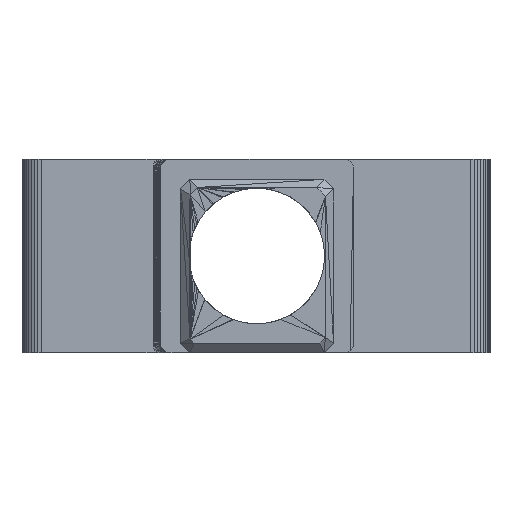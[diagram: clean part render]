
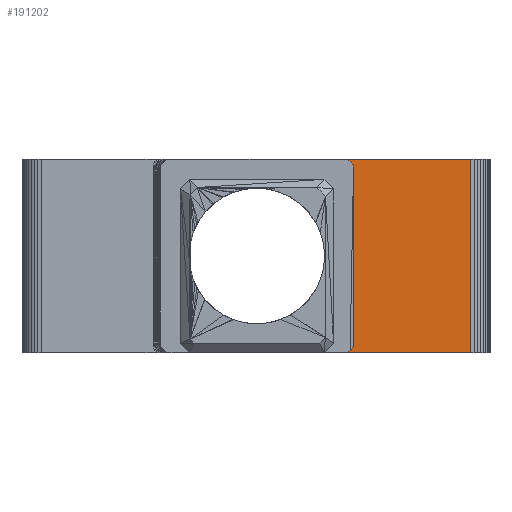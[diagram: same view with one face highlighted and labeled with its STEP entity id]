
A CAD part, front view. The second image highlights one B-rep face of the part: STEP entity #191202.
In plain terms, the highlighted planar face has unit normal (0, -1, 0).
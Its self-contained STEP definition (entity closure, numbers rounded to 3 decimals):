
#2839 = PLANE('',#2840);
#2840 = AXIS2_PLACEMENT_3D('',#2841,#2842,#2843);
#2841 = CARTESIAN_POINT('',(-7.543,7.418,
    20.));
#2842 = DIRECTION('',(0.,0.,1.));
#2843 = DIRECTION('',(1.,0.,-0.));
#8477 = PLANE('',#8478);
#8478 = AXIS2_PLACEMENT_3D('',#8479,#8480,#8481);
#8479 = CARTESIAN_POINT('',(23.228,9.097,0.));
#8480 = DIRECTION('',(-0.,-0.,-1.));
#8481 = DIRECTION('',(-1.,0.,0.));
#13095 = VERTEX_POINT('',#13096);
#13096 = CARTESIAN_POINT('',(22.2,-2.85,0.));
#13110 = PLANE('',#13111);
#13111 = AXIS2_PLACEMENT_3D('',#13112,#13113,#13114);
#13112 = CARTESIAN_POINT('',(22.46,-2.826,
    10.087));
#13113 = DIRECTION('',(0.092,-0.996,-0.));
#13114 = DIRECTION('',(-0.996,-0.092,0.));
#13122 = EDGE_CURVE('',#13095,#13123,#13125,.T.);
#13123 = VERTEX_POINT('',#13124);
#13124 = CARTESIAN_POINT('',(8.5,-2.85,0.));
#13125 = SURFACE_CURVE('',#13126,(#13130,#13137),.PCURVE_S1.);
#13126 = LINE('',#13127,#13128);
#13127 = CARTESIAN_POINT('',(22.2,-2.85,0.));
#13128 = VECTOR('',#13129,1.);
#13129 = DIRECTION('',(-1.,0.,0.));
#13130 = PCURVE('',#8477,#13131);
#13131 = DEFINITIONAL_REPRESENTATION('',(#13132),#13136);
#13132 = LINE('',#13133,#13134);
#13133 = CARTESIAN_POINT('',(1.028,-11.947));
#13134 = VECTOR('',#13135,1.);
#13135 = DIRECTION('',(1.,0.));
#13136 = ( GEOMETRIC_REPRESENTATION_CONTEXT(2) 
PARAMETRIC_REPRESENTATION_CONTEXT() REPRESENTATION_CONTEXT('2D SPACE',''
  ) );
#13137 = PCURVE('',#13138,#13143);
#13138 = PLANE('',#13139);
#13139 = AXIS2_PLACEMENT_3D('',#13140,#13141,#13142);
#13140 = CARTESIAN_POINT('',(15.35,-2.85,
    16.805));
#13141 = DIRECTION('',(-0.,-1.,-0.));
#13142 = DIRECTION('',(0.,0.,-1.));
#13143 = DEFINITIONAL_REPRESENTATION('',(#13144),#13148);
#13144 = LINE('',#13145,#13146);
#13145 = CARTESIAN_POINT('',(16.805,6.85));
#13146 = VECTOR('',#13147,1.);
#13147 = DIRECTION('',(0.,-1.));
#13148 = ( GEOMETRIC_REPRESENTATION_CONTEXT(2) 
PARAMETRIC_REPRESENTATION_CONTEXT() REPRESENTATION_CONTEXT('2D SPACE',''
  ) );
#13166 = PLANE('',#13167);
#13167 = AXIS2_PLACEMENT_3D('',#13168,#13169,#13170);
#13168 = CARTESIAN_POINT('',(8.497,-2.889,
    10.039));
#13169 = DIRECTION('',(0.997,-0.077,0.));
#13170 = DIRECTION('',(0.077,0.997,0.));
#191157 = EDGE_CURVE('',#13123,#191158,#191160,.T.);
#191158 = VERTEX_POINT('',#191159);
#191159 = CARTESIAN_POINT('',(8.5,-2.85,
    20.));
#191160 = SURFACE_CURVE('',#191161,(#191165,#191172),.PCURVE_S1.);
#191161 = LINE('',#191162,#191163);
#191162 = CARTESIAN_POINT('',(8.5,-2.85,0.));
#191163 = VECTOR('',#191164,1.);
#191164 = DIRECTION('',(0.,0.,1.));
#191165 = PCURVE('',#13166,#191166);
#191166 = DEFINITIONAL_REPRESENTATION('',(#191167),#191171);
#191167 = LINE('',#191168,#191169);
#191168 = CARTESIAN_POINT('',(0.039,-10.039));
#191169 = VECTOR('',#191170,1.);
#191170 = DIRECTION('',(0.,1.));
#191171 = ( GEOMETRIC_REPRESENTATION_CONTEXT(2) 
PARAMETRIC_REPRESENTATION_CONTEXT() REPRESENTATION_CONTEXT('2D SPACE',''
  ) );
#191172 = PCURVE('',#13138,#191173);
#191173 = DEFINITIONAL_REPRESENTATION('',(#191174),#191178);
#191174 = LINE('',#191175,#191176);
#191175 = CARTESIAN_POINT('',(16.805,-6.85));
#191176 = VECTOR('',#191177,1.);
#191177 = DIRECTION('',(-1.,0.));
#191178 = ( GEOMETRIC_REPRESENTATION_CONTEXT(2) 
PARAMETRIC_REPRESENTATION_CONTEXT() REPRESENTATION_CONTEXT('2D SPACE',''
  ) );
#191202 = ADVANCED_FACE('',(#191203),#13138,.T.);
#191203 = FACE_BOUND('',#191204,.T.);
#191204 = EDGE_LOOP('',(#191205,#191228,#191229,#191230));
#191205 = ORIENTED_EDGE('',*,*,#191206,.F.);
#191206 = EDGE_CURVE('',#191158,#191207,#191209,.T.);
#191207 = VERTEX_POINT('',#191208);
#191208 = CARTESIAN_POINT('',(22.2,-2.85,
    20.));
#191209 = SURFACE_CURVE('',#191210,(#191214,#191221),.PCURVE_S1.);
#191210 = LINE('',#191211,#191212);
#191211 = CARTESIAN_POINT('',(8.5,-2.85,
    20.));
#191212 = VECTOR('',#191213,1.);
#191213 = DIRECTION('',(1.,0.,0.));
#191214 = PCURVE('',#13138,#191215);
#191215 = DEFINITIONAL_REPRESENTATION('',(#191216),#191220);
#191216 = LINE('',#191217,#191218);
#191217 = CARTESIAN_POINT('',(-3.195,-6.85));
#191218 = VECTOR('',#191219,1.);
#191219 = DIRECTION('',(0.,1.));
#191220 = ( GEOMETRIC_REPRESENTATION_CONTEXT(2) 
PARAMETRIC_REPRESENTATION_CONTEXT() REPRESENTATION_CONTEXT('2D SPACE',''
  ) );
#191221 = PCURVE('',#2839,#191222);
#191222 = DEFINITIONAL_REPRESENTATION('',(#191223),#191227);
#191223 = LINE('',#191224,#191225);
#191224 = CARTESIAN_POINT('',(16.043,-10.268));
#191225 = VECTOR('',#191226,1.);
#191226 = DIRECTION('',(1.,0.));
#191227 = ( GEOMETRIC_REPRESENTATION_CONTEXT(2) 
PARAMETRIC_REPRESENTATION_CONTEXT() REPRESENTATION_CONTEXT('2D SPACE',''
  ) );
#191228 = ORIENTED_EDGE('',*,*,#191157,.F.);
#191229 = ORIENTED_EDGE('',*,*,#13122,.F.);
#191230 = ORIENTED_EDGE('',*,*,#191231,.T.);
#191231 = EDGE_CURVE('',#13095,#191207,#191232,.T.);
#191232 = SURFACE_CURVE('',#191233,(#191237,#191244),.PCURVE_S1.);
#191233 = LINE('',#191234,#191235);
#191234 = CARTESIAN_POINT('',(22.2,-2.85,0.));
#191235 = VECTOR('',#191236,1.);
#191236 = DIRECTION('',(0.,0.,1.));
#191237 = PCURVE('',#13138,#191238);
#191238 = DEFINITIONAL_REPRESENTATION('',(#191239),#191243);
#191239 = LINE('',#191240,#191241);
#191240 = CARTESIAN_POINT('',(16.805,6.85));
#191241 = VECTOR('',#191242,1.);
#191242 = DIRECTION('',(-1.,0.));
#191243 = ( GEOMETRIC_REPRESENTATION_CONTEXT(2) 
PARAMETRIC_REPRESENTATION_CONTEXT() REPRESENTATION_CONTEXT('2D SPACE',''
  ) );
#191244 = PCURVE('',#13110,#191245);
#191245 = DEFINITIONAL_REPRESENTATION('',(#191246),#191250);
#191246 = LINE('',#191247,#191248);
#191247 = CARTESIAN_POINT('',(0.261,10.087));
#191248 = VECTOR('',#191249,1.);
#191249 = DIRECTION('',(0.,-1.));
#191250 = ( GEOMETRIC_REPRESENTATION_CONTEXT(2) 
PARAMETRIC_REPRESENTATION_CONTEXT() REPRESENTATION_CONTEXT('2D SPACE',''
  ) );
